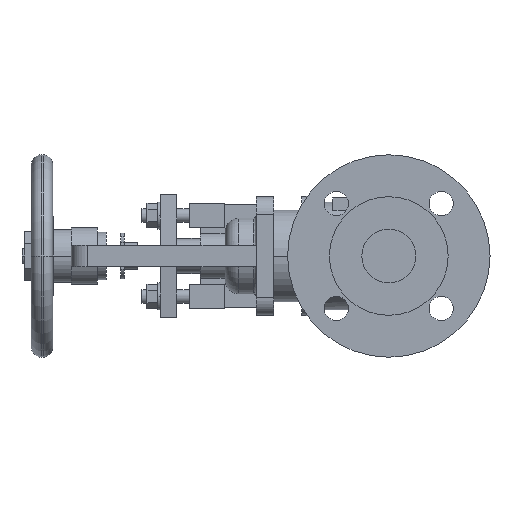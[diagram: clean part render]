
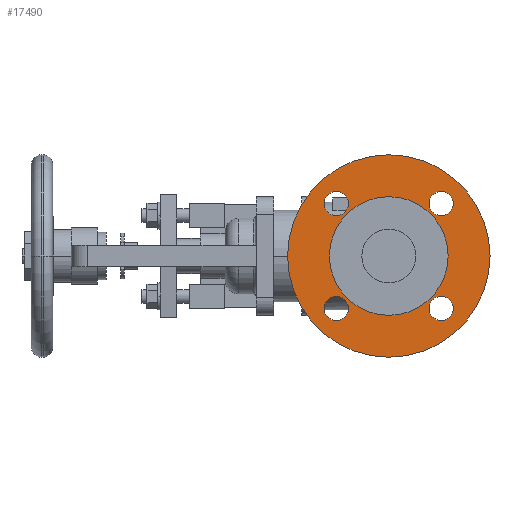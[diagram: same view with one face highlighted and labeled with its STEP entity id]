
A CAD part, left-side view. The second image highlights one B-rep face of the part: STEP entity #17490.
In plain terms, the highlighted planar face has unit normal (-1, 0, 0).
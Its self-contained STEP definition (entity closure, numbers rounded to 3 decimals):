
#8800=CARTESIAN_POINT('',(4.2,0.,75.));
#8810=VERTEX_POINT('',#8800);
#8840=CARTESIAN_POINT('',(4.2,0.,0.));
#8850=DIRECTION('',(1.,0.,0.));
#8860=DIRECTION('',(0.,0.,-1.));
#8870=AXIS2_PLACEMENT_3D('',#8840,#8850,#8860);
#8880=CIRCLE('',#8870,75.);
#8890=CARTESIAN_POINT('',(4.2,75.,0.));
#8900=VERTEX_POINT('',#8890);
#8910=EDGE_CURVE('',#8900,#8810,#8880,.T.);
#8930=CARTESIAN_POINT('',(4.2,0.,-75.));
#8940=VERTEX_POINT('',#8930);
#8950=EDGE_CURVE('',#8940,#8900,#8880,.T.);
#9330=CARTESIAN_POINT('',(4.2,38.891,-47.891));
#9340=VERTEX_POINT('',#9330);
#9500=CARTESIAN_POINT('',(4.2,38.891,-29.891));
#9510=VERTEX_POINT('',#9500);
#9540=CARTESIAN_POINT('',(4.2,38.891,-38.891));
#9550=DIRECTION('',(-1.,0.,0.));
#9560=DIRECTION('',(0.,0.,-1.));
#9570=AXIS2_PLACEMENT_3D('',#9540,#9550,#9560);
#9580=CIRCLE('',#9570,9.);
#9590=EDGE_CURVE('',#9340,#9510,#9580,.T.);
#9820=CARTESIAN_POINT('',(4.2,-38.891,-29.891));
#9830=VERTEX_POINT('',#9820);
#9990=CARTESIAN_POINT('',(4.2,-38.891,-47.891));
#10000=VERTEX_POINT('',#9990);
#10030=CARTESIAN_POINT('',(4.2,-38.891,-38.891));
#10040=DIRECTION('',(-1.,0.,0.));
#10050=DIRECTION('',(0.,0.,-1.));
#10060=AXIS2_PLACEMENT_3D('',#10030,#10040,#10050);
#10070=CIRCLE('',#10060,9.);
#10080=EDGE_CURVE('',#9830,#10000,#10070,.T.);
#10310=CARTESIAN_POINT('',(4.2,38.891,29.891));
#10320=VERTEX_POINT('',#10310);
#10480=CARTESIAN_POINT('',(4.2,38.891,47.891));
#10490=VERTEX_POINT('',#10480);
#10520=CARTESIAN_POINT('',(4.2,38.891,38.891));
#10530=DIRECTION('',(-1.,0.,0.));
#10540=DIRECTION('',(0.,0.,-1.));
#10550=AXIS2_PLACEMENT_3D('',#10520,#10530,#10540);
#10560=CIRCLE('',#10550,9.);
#10570=EDGE_CURVE('',#10320,#10490,#10560,.T.);
#10800=CARTESIAN_POINT('',(4.2,-38.891,47.891));
#10810=VERTEX_POINT('',#10800);
#10970=CARTESIAN_POINT('',(4.2,-38.891,29.891));
#10980=VERTEX_POINT('',#10970);
#11010=CARTESIAN_POINT('',(4.2,-38.891,38.891));
#11020=DIRECTION('',(-1.,0.,0.));
#11030=DIRECTION('',(0.,0.,-1.));
#11040=AXIS2_PLACEMENT_3D('',#11010,#11020,#11030);
#11050=CIRCLE('',#11040,9.);
#11060=EDGE_CURVE('',#10810,#10980,#11050,.T.);
#11290=CARTESIAN_POINT('',(4.2,-44.,0.));
#11300=VERTEX_POINT('',#11290);
#11330=CARTESIAN_POINT('',(4.2,0.,0.));
#11340=DIRECTION('',(-1.,0.,0.));
#11350=DIRECTION('',(0.,1.,0.));
#11360=AXIS2_PLACEMENT_3D('',#11330,#11340,#11350);
#11370=CIRCLE('',#11360,44.);
#11380=CARTESIAN_POINT('',(4.2,44.,0.));
#11390=VERTEX_POINT('',#11380);
#11400=EDGE_CURVE('',#11390,#11300,#11370,.T.);
#17130=CARTESIAN_POINT('',(4.2,59.5,0.));
#17140=DIRECTION('',(1.,0.,0.));
#17150=DIRECTION('',(0.,-1.,0.));
#17160=AXIS2_PLACEMENT_3D('',#17130,#17140,#17150);
#17170=PLANE('',#17160);
#17180=EDGE_CURVE('',#11300,#11390,#11370,.T.);
#17190=ORIENTED_EDGE('',*,*,#17180,.F.);
#17200=ORIENTED_EDGE('',*,*,#11400,.F.);
#17210=EDGE_LOOP('',(#17200,#17190));
#17220=FACE_BOUND('',#17210,.T.);
#17230=ORIENTED_EDGE('',*,*,#8910,.F.);
#17240=EDGE_CURVE('',#8810,#8940,#8880,.T.);
#17250=ORIENTED_EDGE('',*,*,#17240,.F.);
#17260=ORIENTED_EDGE('',*,*,#8950,.F.);
#17270=EDGE_LOOP('',(#17260,#17250,#17230));
#17280=FACE_OUTER_BOUND('',#17270,.T.);
#17290=EDGE_CURVE('',#9510,#9340,#9580,.T.);
#17300=ORIENTED_EDGE('',*,*,#17290,.F.);
#17310=ORIENTED_EDGE('',*,*,#9590,.F.);
#17320=EDGE_LOOP('',(#17310,#17300));
#17330=FACE_BOUND('',#17320,.T.);
#17340=EDGE_CURVE('',#10000,#9830,#10070,.T.);
#17350=ORIENTED_EDGE('',*,*,#17340,.F.);
#17360=ORIENTED_EDGE('',*,*,#10080,.F.);
#17370=EDGE_LOOP('',(#17360,#17350));
#17380=FACE_BOUND('',#17370,.T.);
#17390=EDGE_CURVE('',#10490,#10320,#10560,.T.);
#17400=ORIENTED_EDGE('',*,*,#17390,.F.);
#17410=ORIENTED_EDGE('',*,*,#10570,.F.);
#17420=EDGE_LOOP('',(#17410,#17400));
#17430=FACE_BOUND('',#17420,.T.);
#17440=EDGE_CURVE('',#10980,#10810,#11050,.T.);
#17450=ORIENTED_EDGE('',*,*,#17440,.F.);
#17460=ORIENTED_EDGE('',*,*,#11060,.F.);
#17470=EDGE_LOOP('',(#17460,#17450));
#17480=FACE_BOUND('',#17470,.T.);
#17490=ADVANCED_FACE('',(#17220,#17280,#17330,#17380,#17430,#17480),
#17170,.F.);
